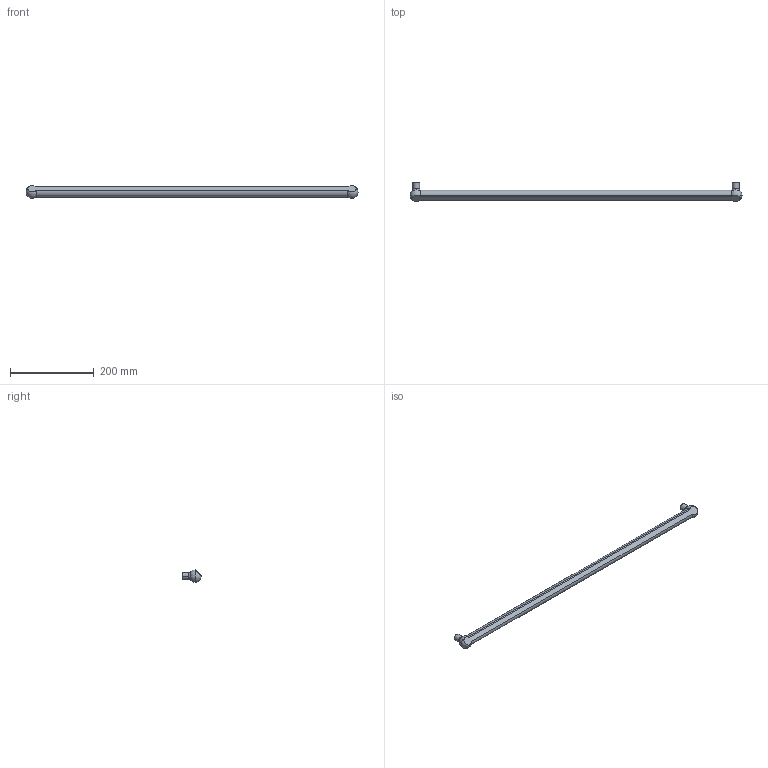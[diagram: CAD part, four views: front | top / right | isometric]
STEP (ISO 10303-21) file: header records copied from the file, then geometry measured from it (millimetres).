
FILE_DESCRIPTION( ( '' ), '1' );
FILE_NAME( 'D:/1.AUTOCAD EXPORT/Group 10/sheet_10_1/9105773.stp', '2013-10-18T08:26:30', ( '' ), ( '' ), ' ', ' ', ' ' );
FILE_SCHEMA( ( 'automotive_design' ) );
Length unit declared in the file: millimetre
Products named in the file (1): 1
Bounding box: 795 x 45 x 30 mm (x, y, z)
Volume: 360129 mm3; surface area: 62271.5 mm2
Topology: 1 solids, 1 shells, 26 faces, 72 edges, 40 vertices
Faces by surface type: cylinder 11, sphere 6, plane 5, torus 4
Entity records: 1548 total; most frequent: DIRECTION 162, CARTESIAN_POINT 157, STYLED_ITEM 129, PRESENTATION_STYLE_ASSIGNMENT 129, COLOUR_RGB 129, ORIENTED_EDGE 124, AXIS2_PLACEMENT_3D 75, EDGE_CURVE 62
